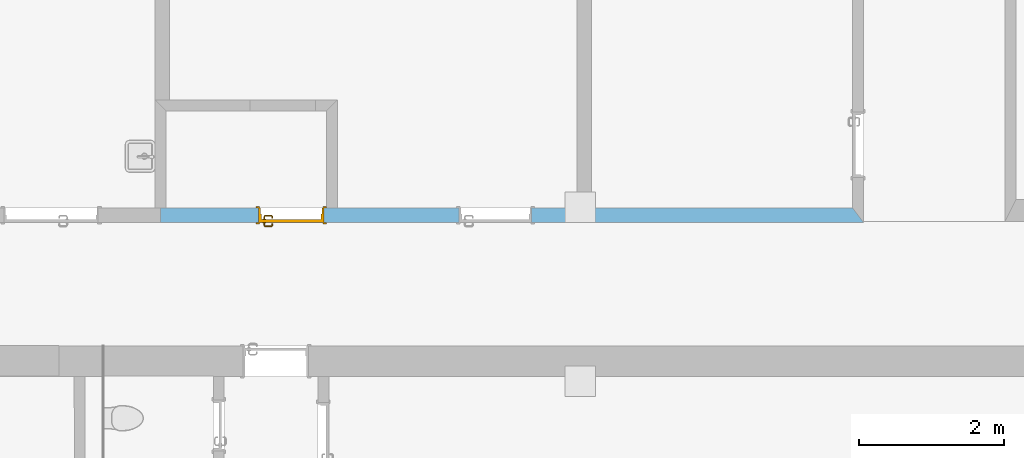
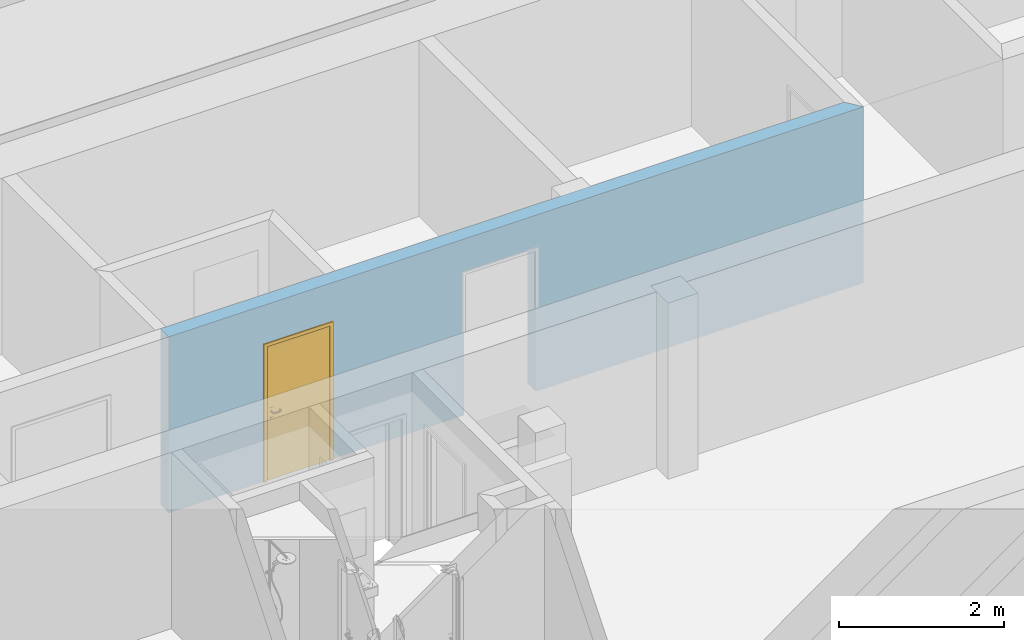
# One storey, part 54 of 127: 1 door, 2 openings, plus 1 element that does not belong to this part.
"""IFC2X3 building model written with IfcOpenShell, lengths in millimetres."""

from ifc_helpers import new_model, entity, si_unit, converted_unit, derived_unit, money_unit, direction, frame, origin_with_axes, origin_2d_with_axis, place, context, subcontext, project, spatial, polyline, rectangle, outline, extrude, open_shell, faceted_brep, surface_model, material, layer, layer_set, layer_usage, type_object, element, fill, save


model = new_model("IFC2X3")

# Units and contexts
model_context = context("Model", 3, precision=1e-05, world=origin_with_axes(), true_north=direction((0.0, 1.0)))
body_context = subcontext(model_context, "Body", "Model", "MODEL_VIEW")
ifc_project = project(units=[si_unit("LENGTHUNIT", "METRE", prefix="MILLI"), si_unit("AREAUNIT", "SQUARE_METRE"), si_unit("VOLUMEUNIT", "CUBIC_METRE"), converted_unit("PLANEANGLEUNIT", "DEGREE", entity("IfcPlaneAngleMeasure", 0.0174532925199), si_unit("PLANEANGLEUNIT", "RADIAN"), dimensions=[0, 0, 0, 0, 0, 0, 0]), si_unit("SOLIDANGLEUNIT", "STERADIAN"), money_unit("EUR"), converted_unit("TIMEUNIT", "Year", entity("IfcTimeMeasure", 31556926.0), si_unit("TIMEUNIT", "SECOND"), dimensions=[0, 0, 1, 0, 0, 0, 0]), si_unit("MASSUNIT", "GRAM", prefix="KILO"), si_unit("THERMODYNAMICTEMPERATUREUNIT", "DEGREE_CELSIUS"), si_unit("LUMINOUSINTENSITYUNIT", "LUMEN"), si_unit("ENERGYUNIT", "JOULE", prefix="MEGA"), derived_unit("THERMALCONDUCTANCEUNIT", [(si_unit("POWERUNIT", "WATT"), 1), (si_unit("LENGTHUNIT", "METRE"), -1), (si_unit("THERMODYNAMICTEMPERATUREUNIT", "KELVIN"), -1)]), derived_unit("SPECIFICHEATCAPACITYUNIT", [(si_unit("ENERGYUNIT", "JOULE"), 1), (si_unit("MASSUNIT", "GRAM", prefix="KILO"), -1), (si_unit("THERMODYNAMICTEMPERATUREUNIT", "KELVIN"), -1)]), derived_unit("MASSDENSITYUNIT", [(si_unit("MASSUNIT", "GRAM", prefix="KILO"), 1), (si_unit("VOLUMEUNIT", "CUBIC_METRE"), -1)])], contexts=[model_context])

# Site, building, storey
site_placement = place(None, origin_with_axes())
site = spatial("IfcSite", under=ifc_project, at=site_placement, Name="Site", CompositionType="ELEMENT")
building_placement = place(site_placement, origin_with_axes())
building = spatial("IfcBuilding", under=site, at=building_placement, Name="Building", CompositionType="ELEMENT")
storey_placement = place(building_placement, origin_with_axes())
storey = spatial("IfcBuildingStorey", under=building, at=storey_placement, Name="1 KORRUS", CompositionType="ELEMENT", Elevation=0.0)

# Wall, openings, door
ifc_material = material(Name="Kivi -Ol.Olev Konstruktsioon")
ifc_layer = layer(ifc_material, 200.0, ventilated="UNKNOWN")
ifc_layer_set = layer_set([ifc_layer], Name="ol.olev ss 200")
ifc_layer_usage = layer_usage(ifc_layer_set, "AXIS2", "POSITIVE", -200.0)
wall_type = type_object("IfcWallType", Name="SW - 036", PredefinedType="NOTDEFINED")
wall_placement = place(storey_placement, frame((79700.2206896, 42706.5120665, 0.0), z_axis=(0.0, 0.0, 1.0), x_axis=(-1.0, 0.0, 0.0)))
wall = element("IfcWallStandardCase", 1, at=wall_placement, inside=storey, type_object=wall_type, material=ifc_layer_usage, Name="ol.olev ss 200", context=body_context, shape_type="SweptSolid", body=[
    extrude(outline(polyline([(0.0, -200.0), (9543.44607645, -200.0), (9543.44607645, 0.0), (-150.0, 0.0), (0.0, -200.0)])), origin_with_axes(), (0.0, 0.0, 1.0), 2600.0),
])
opening_1_placement = place(wall_placement, frame((7740.94366922, 0.0, 0.0), z_axis=(0.0, 0.0, 1.0), x_axis=(1.0, 0.0, 0.0)))
opening_1 = element("IfcOpeningElement", 2, at=opening_1_placement, cuts=wall, Name="Siseuks * Door 22", context=body_context, shape_type="SweptSolid", body=[
    extrude(rectangle(XDim=900.0, YDim=2000.0, at=origin_2d_with_axis()), frame((0.0, -200.0, 1000.0), z_axis=(0.0, -1.0, 0.0), x_axis=(-1.0, 0.0, 0.0)), (0.0, 0.0, -1.0), 600.0),
    extrude(rectangle(XDim=974.0, YDim=2037.0, at=origin_2d_with_axis()), frame((0.0, -200.0, 1018.5), z_axis=(0.0, -1.0, 0.0), x_axis=(-1.0, 0.0, 0.0)), (0.0, 0.0, 1.0), 200.0),
    extrude(rectangle(XDim=974.0, YDim=2037.0, at=origin_2d_with_axis()), frame((0.0, 0.0, 1018.5), z_axis=(0.0, 1.0, 0.0), x_axis=(-1.0, 0.0, 0.0)), (0.0, 0.0, 1.0), 200.0),
])
opening_2_placement = place(wall_placement, frame((4924.39787578, 0.0, 0.0), z_axis=(0.0, 0.0, 1.0), x_axis=(1.0, 0.0, 0.0)))
element("IfcOpeningElement", 3, at=opening_2_placement, cuts=wall, Name="Siseuks * Door 22", context=body_context, shape_type="SweptSolid", body=[
    extrude(rectangle(XDim=1000.0, YDim=2100.0, at=origin_2d_with_axis()), frame((0.0, -200.0, 1050.0), z_axis=(0.0, -1.0, 0.0), x_axis=(-1.0, 0.0, 0.0)), (0.0, 0.0, -1.0), 600.0),
    extrude(rectangle(XDim=1074.0, YDim=2137.0, at=origin_2d_with_axis()), frame((0.0, -200.0, 1068.5), z_axis=(0.0, -1.0, 0.0), x_axis=(-1.0, 0.0, 0.0)), (0.0, 0.0, 1.0), 200.0),
    extrude(rectangle(XDim=1074.0, YDim=2137.0, at=origin_2d_with_axis()), frame((0.0, 0.0, 1068.5), z_axis=(0.0, 1.0, 0.0), x_axis=(-1.0, 0.0, 0.0)), (0.0, 0.0, 1.0), 200.0),
])
door_style = type_object("IfcDoorStyle", Name="SU-B125A   900×2\xa0000", ConstructionType="NOTDEFINED", OperationType="SINGLE_SWING_LEFT", ParameterTakesPrecedence=False, Sizeable=False)
door_placement = place(opening_1_placement, frame((-450.0, 0.0, 0.0), z_axis=(0.0, 0.0, 1.0), x_axis=(1.0, 0.0, 0.0)))
door = element("IfcDoor", 4, at=door_placement, inside=storey, type_object=door_style, Name="Siseuks * Door 22", OverallHeight=2000.0, OverallWidth=900.0, context=body_context, shape_type="SurfaceModel", body=[
    faceted_brep([(900.0, -115.0, 0.0), (900.0, -200.0, 0.0), (875.0, -200.0, 0.0), (875.0, -115.0, 0.0), (900.0, -115.0, 2000.0), (900.0, -200.0, 2000.0), (875.0, -200.0, 1975.0), (875.0, -115.0, 1975.0)], [[[0, 1, 2, 3]], [[4, 5, 1, 0]], [[1, 5, 6, 2]], [[3, 2, 6, 7]], [[0, 3, 7, 4]], [[7, 6, 5, 4]]]),
    faceted_brep([(0.0, -115.0, 2000.0), (0.0, -200.0, 2000.0), (25.0000000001, -200.0, 1975.0), (25.0000000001, -115.0, 1975.0), (0.0, -115.0, 0.0), (0.0, -200.0, 0.0), (25.0000000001, -200.0, 0.0), (25.0000000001, -115.0, 0.0)], [[[0, 1, 2, 3]], [[4, 5, 1, 0]], [[1, 5, 6, 2]], [[3, 2, 6, 7]], [[0, 3, 7, 4]], [[7, 6, 5, 4]]]),
    faceted_brep([(875.0, -115.0, 1975.0), (875.0, -200.0, 1975.0), (25.0000000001, -200.0, 1975.0), (25.0000000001, -115.0, 1975.0), (900.0, -115.0, 2000.0), (900.0, -200.0, 2000.0), (0.0, -200.0, 2000.0), (0.0, -115.0, 2000.0)], [[[0, 1, 2, 3]], [[4, 5, 1, 0]], [[1, 5, 6, 2]], [[3, 2, 6, 7]], [[0, 3, 7, 4]], [[7, 6, 5, 4]]]),
    faceted_brep([(937.0, -219.0, 0.0), (887.0, -219.0, 0.0), (887.0, -200.0, 0.0), (937.0, -200.0, 0.0), (937.0, -219.0, 2037.0), (887.0, -219.0, 1987.0), (887.0, -200.0, 1987.0), (937.0, -200.0, 2037.0)], [[[0, 1, 2, 3]], [[0, 4, 5, 1]], [[1, 5, 6, 2]], [[3, 2, 6, 7]], [[4, 0, 3, 7]], [[5, 4, 7, 6]]]),
    faceted_brep([(-36.9999999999, -219.0, 2037.0), (13.0, -219.0, 1987.0), (13.0, -200.0, 1987.0), (-36.9999999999, -200.0, 2037.0), (-36.9999999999, -219.0, 0.0), (13.0, -219.0, 0.0), (13.0, -200.0, 0.0), (-36.9999999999, -200.0, 0.0)], [[[0, 1, 2, 3]], [[0, 4, 5, 1]], [[1, 5, 6, 2]], [[3, 2, 6, 7]], [[4, 0, 3, 7]], [[5, 4, 7, 6]]]),
    faceted_brep([(937.0, -219.0, 2037.0), (887.0, -219.0, 1987.0), (887.0, -200.0, 1987.0), (937.0, -200.0, 2037.0), (-36.9999999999, -219.0, 2037.0), (13.0, -219.0, 1987.0), (13.0, -200.0, 1987.0), (-36.9999999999, -200.0, 2037.0)], [[[0, 1, 2, 3]], [[0, 4, 5, 1]], [[1, 5, 6, 2]], [[3, 2, 6, 7]], [[4, 0, 3, 7]], [[5, 4, 7, 6]]]),
    faceted_brep([(937.0, 19.0000000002, 0.0), (937.0, 0.0, 0.0), (887.0, 0.0, 0.0), (887.0, 19.0000000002, 0.0), (937.0, 19.0000000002, 2037.0), (937.0, 0.0, 2037.0), (887.0, 0.0, 1987.0), (887.0, 19.0000000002, 1987.0)], [[[0, 1, 2, 3]], [[4, 5, 1, 0]], [[1, 5, 6, 2]], [[3, 2, 6, 7]], [[0, 3, 7, 4]], [[7, 6, 5, 4]]]),
    faceted_brep([(-36.9999999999, 19.0000000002, 2037.0), (-36.9999999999, 0.0, 2037.0), (13.0, 0.0, 1987.0), (13.0, 19.0000000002, 1987.0), (-36.9999999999, 19.0000000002, 0.0), (-36.9999999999, 0.0, 0.0), (13.0, 0.0, 0.0), (13.0, 19.0000000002, 0.0)], [[[0, 1, 2, 3]], [[4, 5, 1, 0]], [[1, 5, 6, 2]], [[3, 2, 6, 7]], [[0, 3, 7, 4]], [[7, 6, 5, 4]]]),
    faceted_brep([(937.0, 19.0000000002, 2037.0), (937.0, 0.0, 2037.0), (887.0, 0.0, 1987.0), (887.0, 19.0000000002, 1987.0), (-36.9999999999, 19.0000000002, 2037.0), (-36.9999999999, 0.0, 2037.0), (13.0, 0.0, 1987.0), (13.0, 19.0000000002, 1987.0)], [[[0, 1, 2, 3]], [[4, 5, 1, 0]], [[1, 5, 6, 2]], [[3, 2, 6, 7]], [[0, 3, 7, 4]], [[7, 6, 5, 4]]]),
    faceted_brep([(860.0, -40.0, 0.0), (860.0, -115.0, 0.0), (860.0, -115.0, 1960.0), (860.0, -40.0, 1960.0), (872.0, -40.0, 0.0), (872.0, 0.0, 0.0), (900.0, 0.0, 0.0), (900.0, -115.0, 0.0), (900.0, -115.0, 1960.0), (872.0, -40.0, 1960.0), (900.0, 0.0, 1960.0), (872.0, 0.0, 1960.0)], [[[0, 1, 2, 3]], [[4, 5, 6, 7, 1, 0]], [[1, 7, 8, 2]], [[9, 3, 2, 8, 10, 11]], [[9, 4, 0, 3]], [[11, 5, 4, 9]], [[11, 10, 6, 5]], [[6, 10, 8, 7]]]),
    faceted_brep([(28.0, -40.0, 1960.0), (28.0, 0.0, 1960.0), (0.0, 0.0, 1960.0), (0.0, -115.0, 1960.0), (40.0000000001, -115.0, 1960.0), (40.0000000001, -40.0, 1960.0), (28.0, -40.0, 0.0), (28.0, 0.0, 0.0), (0.0, 0.0, 0.0), (0.0, -115.0, 0.0), (40.0000000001, -115.0, 0.0), (40.0000000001, -40.0, 0.0)], [[[0, 1, 2, 3, 4, 5]], [[0, 6, 7, 1]], [[7, 8, 2, 1]], [[2, 8, 9, 3]], [[3, 9, 10, 4]], [[5, 4, 10, 11]], [[5, 11, 6, 0]], [[6, 11, 10, 9, 8, 7]]]),
    faceted_brep([(872.0, 0.0, 1972.0), (28.0, 0.0, 1972.0), (28.0, 0.0, 1960.0), (0.0, 0.0, 1960.0), (0.0, 0.0, 2000.0), (900.0, 0.0, 2000.0), (900.0, 0.0, 1960.0), (872.0, 0.0, 1960.0), (872.0, -40.0, 1972.0), (28.0, -40.0, 1972.0), (28.0, -40.0, 1960.0), (40.0000000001, -40.0, 1960.0), (40.0000000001, -115.0, 1960.0), (0.0, -115.0, 1960.0), (0.0, -115.0, 2000.0), (900.0, -115.0, 2000.0), (900.0, -115.0, 1960.0), (872.0, -40.0, 1960.0), (860.0, -115.0, 1960.0), (860.0, -40.0, 1960.0)], [[[0, 1, 2, 3, 4, 5, 6, 7]], [[0, 8, 9, 1]], [[1, 9, 10, 2]], [[10, 11, 12, 13, 3, 2]], [[4, 3, 13, 14]], [[5, 4, 14, 15]], [[6, 5, 15, 16]], [[17, 7, 6, 16, 18, 19]], [[7, 17, 8, 0]], [[10, 9, 8, 17, 19, 11]], [[19, 18, 12, 11]], [[12, 18, 16, 15, 14, 13]]]),
    faceted_brep([(850.5, -40.0, 1060.0), (793.5, -40.0, 1060.0), (793.5, -42.9999999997, 1060.0), (850.5, -42.9999999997, 1060.0), (850.5, -40.0, 870.0), (793.5, -40.0, 870.0), (793.5, -42.9999999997, 870.0), (850.5, -42.9999999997, 870.0)], [[[0, 1, 2, 3]], [[0, 4, 5, 1]], [[1, 5, 6, 2]], [[3, 2, 6, 7]], [[4, 0, 3, 7]], [[5, 4, 7, 6]]]),
    surface_model("IfcShellBasedSurfaceModel", [(812.0, -52.9999999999, 1000.0), (814.928932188, -52.9999999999, 992.928932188), (814.928932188, -72.3035606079, 992.928932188), (812.0, -72.0150859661, 1000.0), (822.0, -52.9999999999, 990.0), (822.0, -73.0000000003, 990.0), (813.816790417, -77.8946748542, 992.928932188), (811.057796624, -76.7518622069, 1000.0), (814.928932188, -52.9999999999, 1007.07106781), (814.928932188, -72.3035606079, 1007.07106781), (829.071067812, -52.9999999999, 992.928932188), (829.071067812, -73.6964393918, 992.928932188), (820.47759065, -80.6536686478, 990.0), (811.044179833, -82.0441798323, 992.928932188), (808.932537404, -79.9325374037, 1000.0), (813.816790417, -77.8946748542, 1007.07106781), (822.0, -52.9999999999, 1010.0), (822.0, -73.0000000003, 1010.0), (832.0, -52.9999999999, 1000.0), (832.0, -73.9849140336, 1000.0), (827.138390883, -83.4126624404, 992.928932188), (816.142135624, -87.1421356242, 990.0), (806.894674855, -84.8167904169, 992.928932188), (805.751862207, -82.0577966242, 1000.0), (811.044179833, -82.0441798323, 1007.07106781), (820.47759065, -80.6536686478, 1010.0), (829.071067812, -52.9999999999, 1007.07106781), (829.071067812, -73.6964393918, 1007.07106781), (829.897384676, -84.5554750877, 1000.0), (821.240091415, -92.2400914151, 992.928932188), (809.653668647, -91.4775906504, 990.0), (801.303560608, -85.9289321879, 992.928932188), (801.015085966, -82.9999999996, 1000.0), (806.894674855, -84.8167904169, 1007.07106781), (816.142135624, -87.1421356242, 1010.0), (827.138390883, -83.4126624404, 1007.07106781), (823.351733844, -94.3517338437, 1000.0), (812.41266244, -98.1383908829, 992.928932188), (802.0, -92.9999999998, 990.0), (732.696439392, -85.9289321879, 992.928932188), (732.984914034, -82.9999999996, 1000.0), (801.303560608, -85.9289321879, 1007.07106781), (809.653668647, -91.4775906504, 1010.0), (821.240091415, -92.2400914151, 1007.07106781), (813.555475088, -100.897384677, 1000.0), (802.696439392, -100.071067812, 992.928932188), (732.0, -92.9999999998, 990.0), (727.105325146, -84.8167904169, 992.928932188), (728.248137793, -82.0577966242, 1000.0), (732.696439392, -85.9289321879, 1007.07106781), (802.0, -92.9999999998, 1010.0), (812.41266244, -98.1383908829, 1007.07106781), (802.984914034, -103.0, 1000.0), (731.303560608, -100.071067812, 992.928932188), (724.346331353, -91.4775906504, 990.0), (722.955820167, -82.0441798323, 992.928932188), (725.067462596, -79.9325374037, 1000.0), (727.105325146, -84.8167904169, 1007.07106781), (732.0, -92.9999999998, 1010.0), (802.696439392, -100.071067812, 1007.07106781), (731.015085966, -103.0, 1000.0), (721.58733756, -98.1383908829, 992.928932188), (717.857864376, -87.1421356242, 990.0), (720.183209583, -77.8946748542, 992.928932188), (722.942203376, -76.7518622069, 1000.0), (722.955820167, -82.0441798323, 1007.07106781), (724.346331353, -91.4775906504, 1010.0), (731.303560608, -100.071067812, 1007.07106781), (720.444524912, -100.897384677, 1000.0), (712.759908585, -92.2400914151, 992.928932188), (713.52240935, -80.6536686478, 990.0), (719.071067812, -72.3035606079, 992.928932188), (722.0, -72.0150859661, 1000.0), (720.183209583, -77.8946748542, 1007.07106781), (717.857864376, -87.1421356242, 1010.0), (721.58733756, -98.1383908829, 1007.07106781), (710.648266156, -94.3517338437, 1000.0), (706.861609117, -83.4126624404, 992.928932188), (712.0, -73.0000000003, 990.0), (719.071067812, -52.9999999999, 992.928932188), (722.0, -52.9999999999, 1000.0), (719.071067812, -72.3035606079, 1007.07106781), (713.52240935, -80.6536686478, 1010.0), (712.759908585, -92.2400914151, 1007.07106781), (704.102615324, -84.5554750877, 1000.0), (704.928932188, -73.6964393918, 992.928932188), (712.0, -52.9999999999, 990.0), (704.928932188, -52.9999999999, 992.928932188), (702.0, -52.9999999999, 1000.0), (704.928932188, -52.9999999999, 1007.07106781), (712.0, -52.9999999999, 1010.0), (719.071067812, -52.9999999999, 1007.07106781), (712.0, -73.0000000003, 1010.0), (706.861609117, -83.4126624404, 1007.07106781), (702.0, -73.9849140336, 1000.0), (704.928932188, -73.6964393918, 1007.07106781)], [open_shell([[[0, 1, 2, 3]], [[1, 4, 5, 2]], [[3, 2, 6, 7]], [[8, 0, 3, 9]], [[4, 10, 11, 5]], [[2, 5, 12, 6]], [[7, 6, 13, 14]], [[9, 3, 7, 15]], [[16, 8, 9, 17]], [[10, 18, 19, 11]], [[5, 11, 20, 12]], [[6, 12, 21, 13]], [[14, 13, 22, 23]], [[15, 7, 14, 24]], [[17, 9, 15, 25]], [[26, 16, 17, 27]], [[18, 26, 27, 19]], [[11, 19, 28, 20]], [[12, 20, 29, 21]], [[13, 21, 30, 22]], [[23, 22, 31, 32]], [[24, 14, 23, 33]], [[25, 15, 24, 34]], [[27, 17, 25, 35]], [[19, 27, 35, 28]], [[20, 28, 36, 29]], [[21, 29, 37, 30]], [[22, 30, 38, 31]], [[32, 31, 39, 40]], [[33, 23, 32, 41]], [[34, 24, 33, 42]], [[35, 25, 34, 43]], [[28, 35, 43, 36]], [[29, 36, 44, 37]], [[30, 37, 45, 38]], [[31, 38, 46, 39]], [[40, 39, 47, 48]], [[41, 32, 40, 49]], [[42, 33, 41, 50]], [[43, 34, 42, 51]], [[36, 43, 51, 44]], [[37, 44, 52, 45]], [[38, 45, 53, 46]], [[39, 46, 54, 47]], [[48, 47, 55, 56]], [[49, 40, 48, 57]], [[50, 41, 49, 58]], [[51, 42, 50, 59]], [[44, 51, 59, 52]], [[45, 52, 60, 53]], [[46, 53, 61, 54]], [[47, 54, 62, 55]], [[56, 55, 63, 64]], [[57, 48, 56, 65]], [[58, 49, 57, 66]], [[59, 50, 58, 67]], [[52, 59, 67, 60]], [[53, 60, 68, 61]], [[54, 61, 69, 62]], [[55, 62, 70, 63]], [[64, 63, 71, 72]], [[65, 56, 64, 73]], [[66, 57, 65, 74]], [[67, 58, 66, 75]], [[60, 67, 75, 68]], [[61, 68, 76, 69]], [[62, 69, 77, 70]], [[63, 70, 78, 71]], [[72, 71, 79, 80]], [[73, 64, 72, 81]], [[74, 65, 73, 82]], [[75, 66, 74, 83]], [[68, 75, 83, 76]], [[69, 76, 84, 77]], [[70, 77, 85, 78]], [[71, 78, 86, 79]], [[80, 79, 86, 87, 88, 89, 90, 91]], [[81, 72, 80, 91]], [[82, 73, 81, 92]], [[83, 74, 82, 93]], [[76, 83, 93, 84]], [[77, 84, 94, 85]], [[78, 85, 87, 86]], [[85, 94, 88, 87]], [[94, 95, 89, 88]], [[95, 92, 90, 89]], [[92, 81, 91, 90]], [[93, 82, 92, 95]], [[84, 93, 95, 94]]])]),
    faceted_brep([(811.607695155, -52.9999999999, 994.0), (810.0, -52.9999999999, 1000.0), (809.0, -42.9999999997, 1000.0), (810.741669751, -42.9999999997, 993.5), (816.0, -52.9999999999, 989.607695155), (822.0, -52.9999999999, 988.0), (828.0, -52.9999999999, 989.607695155), (832.392304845, -52.9999999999, 994.0), (834.0, -52.9999999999, 1000.0), (832.392304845, -52.9999999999, 1006.0), (828.0, -52.9999999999, 1010.39230485), (822.0, -52.9999999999, 1012.0), (816.0, -52.9999999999, 1010.39230485), (811.607695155, -52.9999999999, 1006.0), (810.741669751, -42.9999999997, 1006.5), (815.5, -42.9999999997, 1011.25833025), (822.0, -42.9999999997, 1013.0), (828.5, -42.9999999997, 1011.25833025), (833.258330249, -42.9999999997, 1006.5), (835.0, -42.9999999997, 1000.0), (833.258330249, -42.9999999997, 993.5), (828.5, -42.9999999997, 988.741669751), (822.0, -42.9999999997, 987.0), (815.5, -42.9999999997, 988.741669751)], [[[0, 1, 2, 3]], [[1, 0, 4, 5, 6, 7, 8, 9, 10, 11, 12, 13]], [[1, 13, 14, 2]], [[2, 14, 15, 16, 17, 18, 19, 20, 21, 22, 23, 3]], [[4, 0, 3, 23]], [[5, 4, 23, 22]], [[6, 5, 22, 21]], [[7, 6, 21, 20]], [[8, 7, 20, 19]], [[9, 8, 19, 18]], [[10, 9, 18, 17]], [[11, 10, 17, 16]], [[12, 11, 16, 15]], [[13, 12, 15, 14]]]),
    faceted_brep([(804.679491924, -46.9999999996, 895.0), (802.0, -46.9999999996, 905.0), (800.0, -42.9999999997, 905.0), (802.947441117, -42.9999999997, 894.0), (812.0, -46.9999999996, 887.679491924), (822.0, -46.9999999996, 885.0), (832.0, -46.9999999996, 887.679491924), (839.320508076, -46.9999999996, 895.0), (842.0, -46.9999999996, 905.0), (839.320508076, -46.9999999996, 915.0), (832.0, -46.9999999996, 922.320508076), (822.0, -46.9999999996, 925.0), (812.0, -46.9999999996, 922.320508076), (804.679491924, -46.9999999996, 915.0), (802.947441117, -42.9999999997, 916.0), (811.0, -42.9999999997, 924.052558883), (822.0, -42.9999999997, 927.0), (833.0, -42.9999999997, 924.052558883), (841.052558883, -42.9999999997, 916.0), (844.0, -42.9999999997, 905.0), (841.052558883, -42.9999999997, 894.0), (833.0, -42.9999999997, 885.947441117), (822.0, -42.9999999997, 883.0), (811.0, -42.9999999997, 885.947441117)], [[[0, 1, 2, 3]], [[1, 0, 4, 5, 6, 7, 8, 9, 10, 11, 12, 13]], [[1, 13, 14, 2]], [[2, 14, 15, 16, 17, 18, 19, 20, 21, 22, 23, 3]], [[4, 0, 3, 23]], [[5, 4, 23, 22]], [[6, 5, 22, 21]], [[7, 6, 21, 20]], [[8, 7, 20, 19]], [[9, 8, 19, 18]], [[10, 9, 18, 17]], [[11, 10, 17, 16]], [[12, 11, 16, 15]], [[13, 12, 15, 14]]]),
    faceted_brep([(817.050252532, -49.0, 909.050252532), (815.0, -49.0, 914.0), (814.0, -46.9999999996, 914.0), (816.343145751, -46.9999999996, 908.343145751), (822.0, -49.0, 907.0), (826.949747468, -49.0, 909.050252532), (829.0, -49.0, 914.0), (826.949747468, -49.0, 918.949747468), (822.0, -49.0, 921.0), (817.050252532, -49.0, 918.949747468), (816.343145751, -46.9999999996, 919.656854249), (822.0, -46.9999999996, 922.0), (827.65685425, -46.9999999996, 919.656854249), (830.0, -46.9999999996, 914.0), (827.65685425, -46.9999999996, 908.343145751), (822.0, -46.9999999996, 906.0)], [[[0, 1, 2, 3]], [[1, 0, 4, 5, 6, 7, 8, 9]], [[1, 9, 10, 2]], [[2, 10, 11, 12, 13, 14, 15, 3]], [[4, 0, 3, 15]], [[5, 4, 15, 14]], [[6, 5, 14, 13]], [[7, 6, 13, 12]], [[8, 7, 12, 11]], [[9, 8, 11, 10]]]),
    faceted_brep([(850.5, 0.0, 1060.0), (850.5, 2.9999999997, 1060.0), (793.5, 2.9999999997, 1060.0), (793.5, 0.0, 1060.0), (850.5, 0.0, 870.0), (850.5, 2.9999999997, 870.0), (793.5, 2.9999999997, 870.0), (793.5, 0.0, 870.0)], [[[0, 1, 2, 3]], [[4, 5, 1, 0]], [[1, 5, 6, 2]], [[3, 2, 6, 7]], [[0, 3, 7, 4]], [[7, 6, 5, 4]]]),
    surface_model("IfcShellBasedSurfaceModel", [(812.0, 12.9999999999, 1000.0), (812.0, 32.0150859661, 1000.0), (814.928932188, 32.3035606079, 992.928932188), (814.928932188, 12.9999999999, 992.928932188), (814.928932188, 12.9999999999, 1007.07106781), (814.928932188, 32.3035606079, 1007.07106781), (811.057796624, 36.751862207, 1000.0), (813.816790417, 37.8946748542, 992.928932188), (822.0, 33.0000000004, 990.0), (822.0, 12.9999999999, 990.0), (822.0, 12.9999999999, 1010.0), (822.0, 33.0000000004, 1010.0), (813.816790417, 37.8946748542, 1007.07106781), (808.932537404, 39.9325374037, 1000.0), (811.044179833, 42.0441798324, 992.928932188), (820.47759065, 40.6536686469, 990.0), (829.071067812, 33.6964393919, 992.928932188), (829.071067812, 12.9999999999, 992.928932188), (829.071067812, 12.9999999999, 1007.07106781), (829.071067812, 33.6964393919, 1007.07106781), (820.47759065, 40.6536686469, 1010.0), (811.044179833, 42.0441798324, 1007.07106781), (805.751862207, 42.0577966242, 1000.0), (806.894674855, 44.8167904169, 992.928932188), (816.142135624, 47.1421356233, 990.0), (827.138390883, 43.4126624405, 992.928932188), (832.0, 33.9849140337, 1000.0), (832.0, 12.9999999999, 1000.0), (827.138390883, 43.4126624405, 1007.07106781), (816.142135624, 47.1421356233, 1010.0), (806.894674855, 44.8167904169, 1007.07106781), (801.015085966, 42.9999999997, 1000.0), (801.303560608, 45.928932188, 992.928932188), (809.653668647, 51.4775906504, 990.0), (821.240091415, 52.2400914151, 992.928932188), (829.897384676, 44.5554750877, 1000.0), (821.240091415, 52.2400914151, 1007.07106781), (809.653668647, 51.4775906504, 1010.0), (801.303560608, 45.928932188, 1007.07106781), (732.984914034, 42.9999999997, 1000.0), (732.696439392, 45.928932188, 992.928932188), (802.0, 52.9999999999, 990.0), (812.41266244, 58.138390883, 992.928932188), (823.351733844, 54.3517338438, 1000.0), (812.41266244, 58.138390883, 1007.07106781), (802.0, 52.9999999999, 1010.0), (732.696439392, 45.928932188, 1007.07106781), (728.248137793, 42.0577966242, 1000.0), (727.105325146, 44.8167904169, 992.928932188), (732.0, 52.9999999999, 990.0), (802.696439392, 60.0710678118, 992.928932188), (813.555475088, 60.8973846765, 1000.0), (802.696439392, 60.0710678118, 1007.07106781), (732.0, 52.9999999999, 1010.0), (727.105325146, 44.8167904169, 1007.07106781), (725.067462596, 39.9325374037, 1000.0), (722.955820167, 42.0441798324, 992.928932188), (724.346331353, 51.4775906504, 990.0), (731.303560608, 60.0710678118, 992.928932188), (802.984914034, 63.0000000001, 1000.0), (731.303560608, 60.0710678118, 1007.07106781), (724.346331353, 51.4775906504, 1010.0), (722.955820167, 42.0441798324, 1007.07106781), (722.942203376, 36.751862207, 1000.0), (720.183209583, 37.8946748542, 992.928932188), (717.857864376, 47.1421356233, 990.0), (721.58733756, 58.138390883, 992.928932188), (731.015085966, 63.0000000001, 1000.0), (721.58733756, 58.138390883, 1007.07106781), (717.857864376, 47.1421356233, 1010.0), (720.183209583, 37.8946748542, 1007.07106781), (722.0, 32.0150859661, 1000.0), (719.071067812, 32.3035606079, 992.928932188), (713.52240935, 40.6536686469, 990.0), (712.759908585, 52.2400914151, 992.928932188), (720.444524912, 60.8973846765, 1000.0), (712.759908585, 52.2400914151, 1007.07106781), (713.52240935, 40.6536686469, 1010.0), (719.071067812, 32.3035606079, 1007.07106781), (722.0, 12.9999999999, 1000.0), (719.071067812, 12.9999999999, 992.928932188), (712.0, 33.0000000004, 990.0), (706.861609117, 43.4126624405, 992.928932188), (710.648266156, 54.3517338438, 1000.0), (706.861609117, 43.4126624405, 1007.07106781), (712.0, 33.0000000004, 1010.0), (719.071067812, 12.9999999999, 1007.07106781), (712.0, 12.9999999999, 1010.0), (704.928932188, 12.9999999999, 1007.07106781), (702.0, 12.9999999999, 1000.0), (704.928932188, 12.9999999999, 992.928932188), (712.0, 12.9999999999, 990.0), (704.928932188, 33.6964393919, 992.928932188), (704.102615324, 44.5554750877, 1000.0), (704.928932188, 33.6964393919, 1007.07106781), (702.0, 33.9849140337, 1000.0)], [open_shell([[[0, 1, 2, 3]], [[4, 5, 1, 0]], [[1, 6, 7, 2]], [[3, 2, 8, 9]], [[10, 11, 5, 4]], [[5, 12, 6, 1]], [[6, 13, 14, 7]], [[2, 7, 15, 8]], [[9, 8, 16, 17]], [[18, 19, 11, 10]], [[11, 20, 12, 5]], [[12, 21, 13, 6]], [[13, 22, 23, 14]], [[7, 14, 24, 15]], [[8, 15, 25, 16]], [[17, 16, 26, 27]], [[27, 26, 19, 18]], [[19, 28, 20, 11]], [[20, 29, 21, 12]], [[21, 30, 22, 13]], [[22, 31, 32, 23]], [[14, 23, 33, 24]], [[15, 24, 34, 25]], [[16, 25, 35, 26]], [[26, 35, 28, 19]], [[28, 36, 29, 20]], [[29, 37, 30, 21]], [[30, 38, 31, 22]], [[31, 39, 40, 32]], [[23, 32, 41, 33]], [[24, 33, 42, 34]], [[25, 34, 43, 35]], [[35, 43, 36, 28]], [[36, 44, 37, 29]], [[37, 45, 38, 30]], [[38, 46, 39, 31]], [[39, 47, 48, 40]], [[32, 40, 49, 41]], [[33, 41, 50, 42]], [[34, 42, 51, 43]], [[43, 51, 44, 36]], [[44, 52, 45, 37]], [[45, 53, 46, 38]], [[46, 54, 47, 39]], [[47, 55, 56, 48]], [[40, 48, 57, 49]], [[41, 49, 58, 50]], [[42, 50, 59, 51]], [[51, 59, 52, 44]], [[52, 60, 53, 45]], [[53, 61, 54, 46]], [[54, 62, 55, 47]], [[55, 63, 64, 56]], [[48, 56, 65, 57]], [[49, 57, 66, 58]], [[50, 58, 67, 59]], [[59, 67, 60, 52]], [[60, 68, 61, 53]], [[61, 69, 62, 54]], [[62, 70, 63, 55]], [[63, 71, 72, 64]], [[56, 64, 73, 65]], [[57, 65, 74, 66]], [[58, 66, 75, 67]], [[67, 75, 68, 60]], [[68, 76, 69, 61]], [[69, 77, 70, 62]], [[70, 78, 71, 63]], [[71, 79, 80, 72]], [[64, 72, 81, 73]], [[65, 73, 82, 74]], [[66, 74, 83, 75]], [[75, 83, 76, 68]], [[76, 84, 77, 69]], [[77, 85, 78, 70]], [[78, 86, 79, 71]], [[79, 86, 87, 88, 89, 90, 91, 80]], [[72, 80, 91, 81]], [[73, 81, 92, 82]], [[74, 82, 93, 83]], [[83, 93, 84, 76]], [[84, 94, 85, 77]], [[85, 87, 86, 78]], [[94, 88, 87, 85]], [[95, 89, 88, 94]], [[92, 90, 89, 95]], [[81, 91, 90, 92]], [[82, 92, 95, 93]], [[93, 95, 94, 84]]])]),
    faceted_brep([(811.607695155, 12.9999999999, 994.0), (810.741669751, 2.9999999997, 993.5), (809.0, 2.9999999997, 1000.0), (810.0, 12.9999999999, 1000.0), (816.0, 12.9999999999, 989.607695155), (815.5, 2.9999999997, 988.741669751), (822.0, 2.9999999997, 987.0), (828.5, 2.9999999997, 988.741669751), (833.258330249, 2.9999999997, 993.5), (835.0, 2.9999999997, 1000.0), (833.258330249, 2.9999999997, 1006.5), (828.5, 2.9999999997, 1011.25833025), (822.0, 2.9999999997, 1013.0), (815.5, 2.9999999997, 1011.25833025), (810.741669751, 2.9999999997, 1006.5), (811.607695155, 12.9999999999, 1006.0), (816.0, 12.9999999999, 1010.39230485), (822.0, 12.9999999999, 1012.0), (828.0, 12.9999999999, 1010.39230485), (832.392304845, 12.9999999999, 1006.0), (834.0, 12.9999999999, 1000.0), (832.392304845, 12.9999999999, 994.0), (828.0, 12.9999999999, 989.607695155), (822.0, 12.9999999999, 988.0)], [[[0, 1, 2, 3]], [[4, 5, 1, 0]], [[2, 1, 5, 6, 7, 8, 9, 10, 11, 12, 13, 14]], [[3, 2, 14, 15]], [[3, 15, 16, 17, 18, 19, 20, 21, 22, 23, 4, 0]], [[23, 6, 5, 4]], [[22, 7, 6, 23]], [[21, 8, 7, 22]], [[20, 9, 8, 21]], [[19, 10, 9, 20]], [[18, 11, 10, 19]], [[17, 12, 11, 18]], [[16, 13, 12, 17]], [[15, 14, 13, 16]]]),
    faceted_brep([(804.679491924, 6.99999999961, 895.0), (802.947441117, 2.9999999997, 894.0), (800.0, 2.9999999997, 905.0), (802.0, 6.99999999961, 905.0), (812.0, 6.99999999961, 887.679491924), (811.0, 2.9999999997, 885.947441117), (822.0, 2.9999999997, 883.0), (833.0, 2.9999999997, 885.947441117), (841.052558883, 2.9999999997, 894.0), (844.0, 2.9999999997, 905.0), (841.052558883, 2.9999999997, 916.0), (833.0, 2.9999999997, 924.052558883), (822.0, 2.9999999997, 927.0), (811.0, 2.9999999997, 924.052558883), (802.947441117, 2.9999999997, 916.0), (804.679491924, 6.99999999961, 915.0), (812.0, 6.99999999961, 922.320508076), (822.0, 6.99999999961, 925.0), (832.0, 6.99999999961, 922.320508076), (839.320508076, 6.99999999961, 915.0), (842.0, 6.99999999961, 905.0), (839.320508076, 6.99999999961, 895.0), (832.0, 6.99999999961, 887.679491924), (822.0, 6.99999999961, 885.0)], [[[0, 1, 2, 3]], [[4, 5, 1, 0]], [[2, 1, 5, 6, 7, 8, 9, 10, 11, 12, 13, 14]], [[3, 2, 14, 15]], [[3, 15, 16, 17, 18, 19, 20, 21, 22, 23, 4, 0]], [[23, 6, 5, 4]], [[22, 7, 6, 23]], [[21, 8, 7, 22]], [[20, 9, 8, 21]], [[19, 10, 9, 20]], [[18, 11, 10, 19]], [[17, 12, 11, 18]], [[16, 13, 12, 17]], [[15, 14, 13, 16]]]),
    faceted_brep([(817.050252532, 9.00000000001, 909.050252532), (816.343145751, 6.99999999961, 908.343145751), (814.0, 6.99999999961, 914.0), (815.0, 9.00000000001, 914.0), (822.0, 9.00000000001, 907.0), (822.0, 6.99999999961, 906.0), (827.65685425, 6.99999999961, 908.343145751), (830.0, 6.99999999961, 914.0), (827.65685425, 6.99999999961, 919.656854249), (822.0, 6.99999999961, 922.0), (816.343145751, 6.99999999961, 919.656854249), (817.050252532, 9.00000000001, 918.949747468), (822.0, 9.00000000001, 921.0), (826.949747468, 9.00000000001, 918.949747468), (829.0, 9.00000000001, 914.0), (826.949747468, 9.00000000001, 909.050252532)], [[[0, 1, 2, 3]], [[4, 5, 1, 0]], [[2, 1, 5, 6, 7, 8, 9, 10]], [[3, 2, 10, 11]], [[3, 11, 12, 13, 14, 15, 4, 0]], [[15, 6, 5, 4]], [[14, 7, 6, 15]], [[13, 8, 7, 14]], [[12, 9, 8, 13]], [[11, 10, 9, 12]]]),
    faceted_brep([(28.0, 0.0, 0.0), (872.0, 0.0, 0.0), (872.0, -40.0, 0.0), (28.0, -40.0, 0.0), (28.0, 0.0, 1972.0), (872.0, 0.0, 1972.0), (872.0, -40.0, 1972.0), (28.0, -40.0, 1972.0)], [[[0, 1, 2, 3]], [[0, 4, 5, 1]], [[1, 5, 6, 2]], [[3, 2, 6, 7]], [[4, 0, 3, 7]], [[5, 4, 7, 6]]]),
])
fill(opening_1, door)

save(model, "model.ifc")
